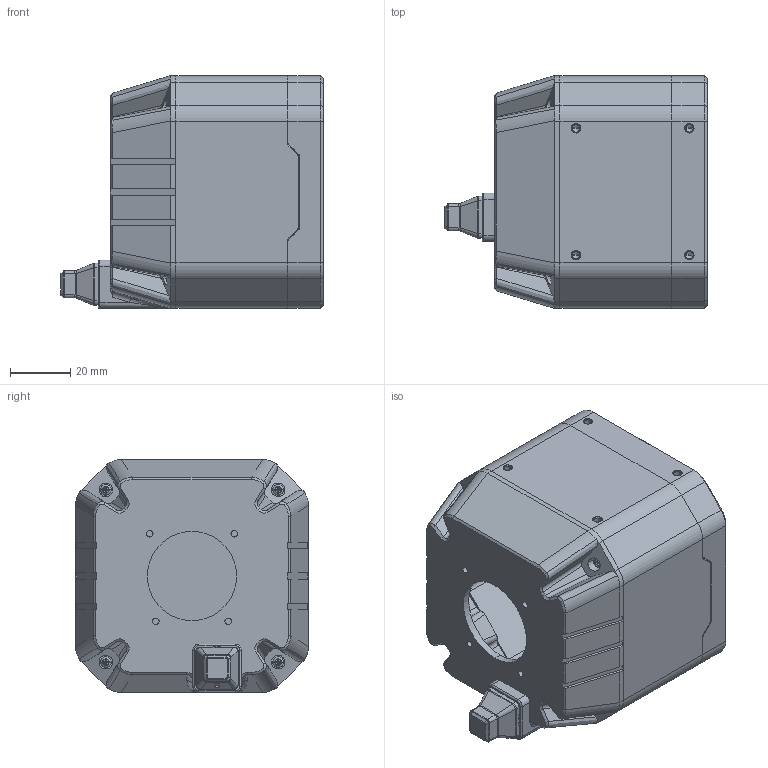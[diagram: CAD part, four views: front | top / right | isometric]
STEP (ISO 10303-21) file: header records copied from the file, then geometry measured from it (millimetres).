
FILE_DESCRIPTION((''),'2;1');
FILE_NAME('JINGTOUZHAO-MAX_ASM','2025-11-28T17:07:57',('xujianping6'),(''),'CREO PARAMETRIC BY PTC INC, 2020044','CREO PARAMETRIC BY PTC INC, 2020044','');
FILE_SCHEMA(('CONFIG_CONTROL_DESIGN'));
Length unit declared in the file: millimetre
Products named in the file (10): MIFENGDIZUO-NEW; MIFENGZHONGKUANG-NEW; MIFENGSHANGGAI-NEW; DE-20-000155_ASM; DB_GAIPIAN-MAX; SC-PM2X4_5-NI; SC-PM2X10-NI-NEW; SR-KAKOU; SR-M10-ASM_ASM; JINGTOUZHAO-MAX_ASM
Assembly tree (15 placements, depth 3):
  JINGTOUZHAO-MAX_ASM
    MIFENGDIZUO-NEW
    MIFENGZHONGKUANG-NEW
    MIFENGSHANGGAI-NEW
    DE-20-000155_ASM
    DB_GAIPIAN-MAX
    SC-PM2X4_5-NI  x4
    SC-PM2X10-NI-NEW  x4
    SR-M10-ASM_ASM
      SR-KAKOU
Bounding box: 87 x 77 x 77 mm (x, y, z)
Volume: 97251.7 mm3; surface area: 64914.3 mm2
Topology: 13 solids, 45 shells, 1386 faces, 3605 edges, 2286 vertices
Faces by surface type: plane 606, cylinder 512, cone 144, bspline 86, torus 38
Entity records: 39105 total; most frequent: CARTESIAN_POINT 13586, ORIENTED_EDGE 5298, DIRECTION 5161, EDGE_CURVE 2701, AXIS2_PLACEMENT_3D 1858, VERTEX_POINT 1728, VECTOR 1445, LINE 1445
